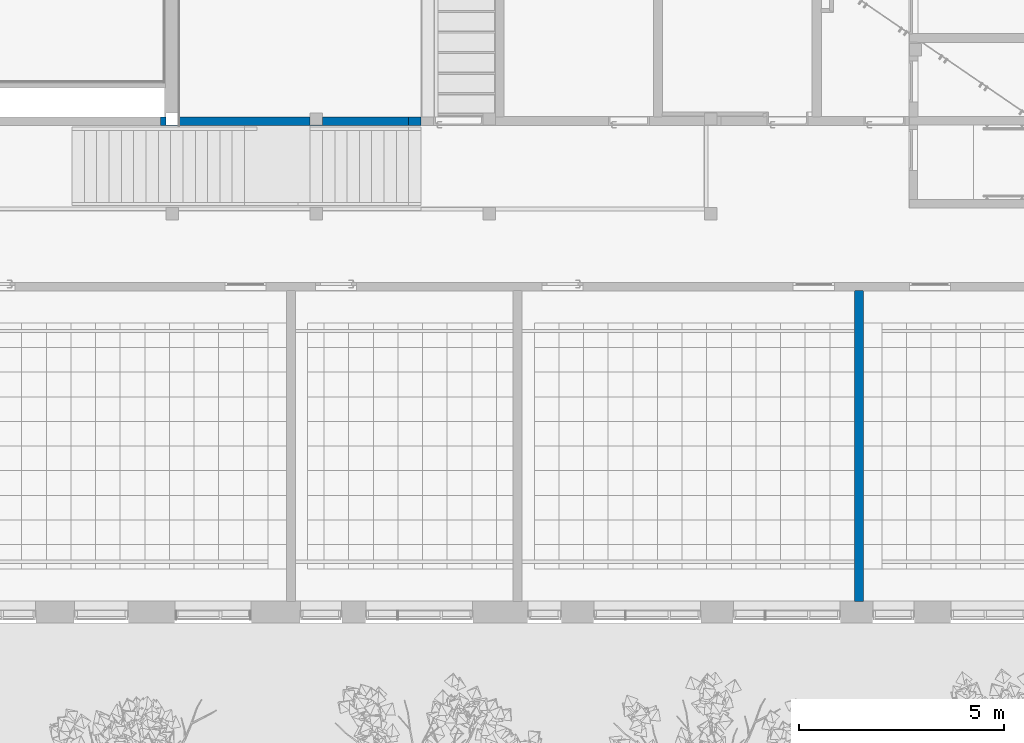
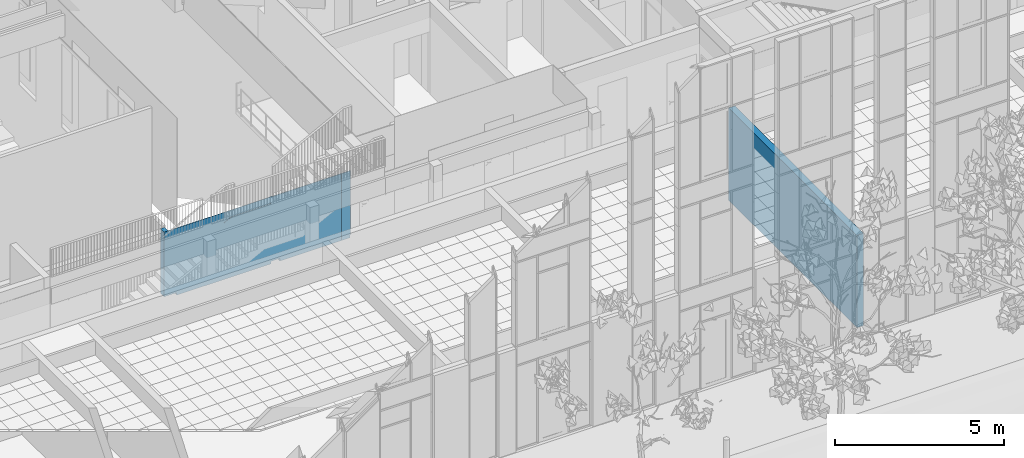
# One storey, part 131 of 246: 3 walls.
"""IFC2X3 building model written with IfcOpenShell, lengths in millimetres."""

import ifcopenshell
import ifcopenshell.guid

model = None  # the IFC model being written
_history = None  # IfcOwnerHistory: only IFC2X3 demands one
_inside = {}  # id of a spatial element -> (the spatial element, [elements in it])
_under = {}  # id of a project, library or spatial element -> (it, [spatial elements below it])
_declared = {}  # id of a project -> (the project, [libraries it declares])
_typed = {}  # id of a type object -> (the type object, [elements of that type])
_made_of = {}  # id of a material, layer set ... -> (it, [elements and type objects made of it])


def new_model(schema):
    """Start an empty IFC model of exactly this schema.

    Asked for "IFC4X3", IfcOpenShell would pick the latest addendum, in which some entities
    have other attributes; the version numbers below select the first issue.
    IFC2X3 requires an IfcOwnerHistory on every rooted entity: one is made here for all.
    """
    global model, _history
    if schema == "IFC4X3":
        model = ifcopenshell.file(schema_version=(4, 3, 0, 0))
    else:
        model = ifcopenshell.file(schema=schema)
    _inside.clear()
    _under.clear()
    _declared.clear()
    _typed.clear()
    _made_of.clear()
    _history = None
    if model.schema == "IFC2X3":
        org = make("IfcOrganization", Name="unknown")
        user = make(
            "IfcPersonAndOrganization",
            ThePerson=make("IfcPerson", FamilyName="unknown"),
            TheOrganization=org,
        )
        app = make(
            "IfcApplication",
            ApplicationDeveloper=org,
            Version="unknown",
            ApplicationFullName="unknown",
            ApplicationIdentifier="unknown",
        )
        _history = make(
            "IfcOwnerHistory",
            OwningUser=user,
            OwningApplication=app,
            ChangeAction="ADDED",
            CreationDate=0,
        )
    return model


def make(cls, **values):
    """One entity of the class cls with the attributes given. An attribute that is None is left unset."""
    return model.create_entity(
        cls, **{name: value for name, value in values.items() if value is not None}
    )


def entity(cls, *values):
    """Any entity or typed value of the class cls, its attributes in the order of the schema. None: left unset."""
    e = model.create_entity(cls)
    for i, value in enumerate(values):
        if value is not None:
            e[i] = value
    return e


def rooted(cls, **values):
    """An entity with a GlobalId (a new one), such as an element, a storey or a relation."""
    return make(cls, GlobalId=ifcopenshell.guid.new(), OwnerHistory=_history, **values)


def si_unit(unit_type, name, prefix=None):
    """IfcSIUnit, for example si_unit("LENGTHUNIT", "METRE", prefix="MILLI")."""
    return make("IfcSIUnit", UnitType=unit_type, Prefix=prefix, Name=name)


def converted_unit(unit_type, name, factor, base, dimensions=None, offset=None):
    """IfcConversionBasedUnit, such as the inch: factor (a typed value) times the base unit."""
    return make(
        "IfcConversionBasedUnit"
        if offset is None
        else "IfcConversionBasedUnitWithOffset",
        ConversionOffset=offset,
        Dimensions=None
        if dimensions is None
        else entity("IfcDimensionalExponents", *dimensions),
        UnitType=unit_type,
        Name=name,
        ConversionFactor=make(
            "IfcMeasureWithUnit", ValueComponent=factor, UnitComponent=base
        ),
    )


def derived_unit(unit_type, elements):
    """IfcDerivedUnit: a product of units, each with its exponent."""
    return make(
        "IfcDerivedUnit",
        Elements=[
            make("IfcDerivedUnitElement", Unit=unit, Exponent=power)
            for unit, power in elements
        ],
        UnitType=unit_type,
    )


def money_unit(currency):
    """IfcMonetaryUnit."""
    return make("IfcMonetaryUnit", Currency=currency)


def assignment(units):
    """IfcUnitAssignment: the units of a project."""
    return None if units is None else make("IfcUnitAssignment", Units=units)


def point(xyz):
    """IfcCartesianPoint."""
    return None if xyz is None else make("IfcCartesianPoint", Coordinates=xyz)


def direction(xyz):
    """IfcDirection."""
    return None if xyz is None else make("IfcDirection", DirectionRatios=xyz)


def frame(location, z_axis=None, x_axis=None):
    """IfcAxis2Placement3D, a coordinate frame: its origin and axes. An axis left out is left unset."""
    return make(
        "IfcAxis2Placement3D",
        Location=point(location),
        Axis=direction(z_axis),
        RefDirection=direction(x_axis),
    )


def origin_with_axes():
    """The frame at (0, 0, 0) with the z axis (0, 0, 1) and the x axis (1, 0, 0) written out."""
    return frame((0.0, 0.0, 0.0), z_axis=(0.0, 0.0, 1.0), x_axis=(1.0, 0.0, 0.0))


def place(relative_to, where):
    """IfcLocalPlacement: puts the frame where relative to a parent placement (None: the world)."""
    return make(
        "IfcLocalPlacement", PlacementRelTo=relative_to, RelativePlacement=where
    )


def context(
    kind, dimensions, precision=None, world=None, true_north=None, identifier=None
):
    """IfcGeometricRepresentationContext, for example the 3D "Model" context."""
    return make(
        "IfcGeometricRepresentationContext",
        ContextIdentifier=identifier,
        ContextType=kind,
        CoordinateSpaceDimension=dimensions,
        Precision=precision,
        WorldCoordinateSystem=world,
        TrueNorth=true_north,
    )


def subcontext(parent, identifier, kind, view, scale=None):
    """IfcGeometricRepresentationSubContext, for example "Body" below "Model"."""
    return make(
        "IfcGeometricRepresentationSubContext",
        ContextIdentifier=identifier,
        ContextType=kind,
        ParentContext=parent,
        TargetScale=scale,
        TargetView=view,
    )


def project(units=None, contexts=None):
    """IfcProject with its units and contexts."""
    return rooted(
        "IfcProject",
        Name="project",
        RepresentationContexts=contexts,
        UnitsInContext=assignment(units),
    )


def spatial(cls, under=None, at=None, **own):
    """A site, building, storey or space (cls), placed at a placement, below another one or the project."""
    s = rooted(cls, ObjectPlacement=at, **own)
    if under is not None:
        _under.setdefault(under.id(), (under, []))[1].append(s)
    return s


def faces_of(points, faces, orient=None, outer=None):
    """IfcFace entities. A face is a list of loops; a loop is a list of indices into points, from 0.

    orient and outer hold one flag for each loop. By default every Orientation is true, the
    first loop of a face is its IfcFaceOuterBound and the others are IfcFaceBound.
    """
    made = []
    for i, loops in enumerate(faces):
        bounds = []
        for j, loop in enumerate(loops):
            is_outer = j == 0 if outer is None else outer[i][j]
            bounds.append(
                make(
                    "IfcFaceOuterBound" if is_outer else "IfcFaceBound",
                    Bound=make("IfcPolyLoop", Polygon=[points[k] for k in loop]),
                    Orientation=True if orient is None else orient[i][j],
                )
            )
        made.append(make("IfcFace", Bounds=bounds))
    return made


def faceted_brep(points, faces, orient=None, outer=None, voids=None):
    """IfcFacetedBrep: a solid bounded by flat faces; with voids (closed shells), ...WithVoids."""
    shared = [point(p) for p in points]
    hull = make("IfcClosedShell", CfsFaces=faces_of(shared, faces, orient, outer))
    if voids is None:
        return make("IfcFacetedBrep", Outer=hull)
    return make(
        "IfcFacetedBrepWithVoids",
        Outer=hull,
        Voids=[
            make(cls, CfsFaces=faces_of(shared, fs, o, b)) for cls, fs, o, b in voids
        ],
    )


def shape(context_of_items, identifier, shape_type, items):
    """IfcShapeRepresentation: the items that make up one representation, for example the "Body"."""
    return make(
        "IfcShapeRepresentation",
        ContextOfItems=context_of_items,
        RepresentationIdentifier=identifier,
        RepresentationType=shape_type,
        Items=items,
    )


def material(Name=None, Category=None):
    """IfcMaterial."""
    return make("IfcMaterial", Name=Name, Category=Category)


def material_list(materials):
    """IfcMaterialList."""
    return make("IfcMaterialList", Materials=materials)


def made_of(thing, what):
    """Note that an element or type object is made of a material, layer set ...; save() writes the relation."""
    if what is not None:
        _made_of.setdefault(what.id(), (what, []))[1].append(thing)
    return thing


def type_object(cls, material=None, **own):
    """A type object (cls), such as IfcWallType, which elements share."""
    return made_of(rooted(cls, **own), material)


def element(
    cls,
    number,
    at=None,
    inside=None,
    cuts=None,
    type_object=None,
    material=None,
    context=None,
    identifier="Body",
    shape_type=None,
    held_by="IfcProductDefinitionShape",
    body=None,
    shapes=None,
    **own,
):
    """One element of the class cls, such as IfcWall. Its Tag is "e" and its number.

    at: its placement. inside: the storey or other place that contains it. cuts: it is an
    opening in that element (IfcRelVoidsElement). A single representation is given by context,
    identifier, shape_type and body (its items); several are given by shapes. held_by: the class
    of the entity that holds the representations. save() writes the other relations.
    """
    e = rooted(cls, Tag="e%d" % number, ObjectPlacement=at, **own)
    if body is not None:
        shapes = [shape(context, identifier, shape_type, body)]
    if shapes is not None:
        e.Representation = make(held_by, Representations=shapes)
    if inside is not None:
        _inside.setdefault(inside.id(), (inside, []))[1].append(e)
    if cuts is not None:
        rooted(
            "IfcRelVoidsElement", RelatingBuildingElement=cuts, RelatedOpeningElement=e
        )
    if type_object is not None:
        _typed.setdefault(type_object.id(), (type_object, []))[1].append(e)
    return made_of(e, material)


def aggregate(whole, parts):
    """IfcRelAggregates: a whole, such as a stair, and the parts it consists of."""
    return rooted("IfcRelAggregates", RelatingObject=whole, RelatedObjects=parts)


def save(model, path):
    """Write the relations noted so far, then the file.

    IfcRelAggregates (storeys below a building ...), IfcRelContainedInSpatialStructure (elements
    in a storey), IfcRelDefinesByType, IfcRelAssociatesMaterial and IfcRelDeclares: one each for
    every whole, place, type object, material and project.
    """
    for whole, parts in _under.values():
        aggregate(whole, parts)
    for where, things in _inside.values():
        rooted(
            "IfcRelContainedInSpatialStructure",
            RelatedElements=things,
            RelatingStructure=where,
        )
    for kind, things in _typed.values():
        rooted("IfcRelDefinesByType", RelatedObjects=things, RelatingType=kind)
    for what, things in _made_of.values():
        rooted("IfcRelAssociatesMaterial", RelatedObjects=things, RelatingMaterial=what)
    for by, libraries in _declared.values():
        rooted("IfcRelDeclares", RelatingContext=by, RelatedDefinitions=libraries)
    model.write(path)


model = new_model("IFC2X3")

# Units and contexts
model_context = context("Model", 3, precision=0.01, world=origin_with_axes(), true_north=direction((0.0, 1.0)))
body_context = subcontext(model_context, "Body", "Model", "MODEL_VIEW")
ifc_project = project(units=[si_unit("LENGTHUNIT", "METRE", prefix="MILLI"), si_unit("AREAUNIT", "SQUARE_METRE"), si_unit("VOLUMEUNIT", "CUBIC_METRE"), converted_unit("PLANEANGLEUNIT", "DEGREE", entity("IfcPlaneAngleMeasure", 0.0174532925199), si_unit("PLANEANGLEUNIT", "RADIAN"), dimensions=[0, 0, 0, 0, 0, 0, 0]), si_unit("SOLIDANGLEUNIT", "STERADIAN"), money_unit("EUR"), converted_unit("TIMEUNIT", "Year", entity("IfcTimeMeasure", 31556926.0), si_unit("TIMEUNIT", "SECOND"), dimensions=[0, 0, 1, 0, 0, 0, 0]), si_unit("MASSUNIT", "GRAM", prefix="KILO"), si_unit("THERMODYNAMICTEMPERATUREUNIT", "DEGREE_CELSIUS"), si_unit("LUMINOUSINTENSITYUNIT", "LUMEN"), si_unit("ENERGYUNIT", "JOULE", prefix="MEGA"), derived_unit("THERMALCONDUCTANCEUNIT", [(si_unit("POWERUNIT", "WATT"), 1), (si_unit("LENGTHUNIT", "METRE"), -1), (si_unit("THERMODYNAMICTEMPERATUREUNIT", "KELVIN"), -1)]), derived_unit("SPECIFICHEATCAPACITYUNIT", [(si_unit("ENERGYUNIT", "JOULE"), 1), (si_unit("MASSUNIT", "GRAM", prefix="KILO"), -1), (si_unit("THERMODYNAMICTEMPERATUREUNIT", "KELVIN"), -1)]), derived_unit("MASSDENSITYUNIT", [(si_unit("MASSUNIT", "GRAM", prefix="KILO"), 1), (si_unit("VOLUMEUNIT", "CUBIC_METRE"), -1)])], contexts=[model_context])

# Site, building, storey
site_placement = place(None, origin_with_axes())
site = spatial("IfcSite", under=ifc_project, at=site_placement, Name="L.Koidula tn 11b", CompositionType="ELEMENT")
building_placement = place(site_placement, origin_with_axes())
building = spatial("IfcBuilding", under=site, at=building_placement, Name="Rakvere Riigigümnaasium", CompositionType="ELEMENT")
storey_placement = place(building_placement, origin_with_axes())
storey = spatial("IfcBuildingStorey", under=building, at=storey_placement, Name="1.korrus 0,00", CompositionType="ELEMENT", Elevation=0.0)

# Walls
ifc_material_1 = material(Name="siseviimistlus-seinad")
ifc_material_2 = material(Name="Betoon element / plaat")
ifc_material_list_1 = material_list([ifc_material_1, ifc_material_2, ifc_material_1])
wall_type_1 = type_object("IfcWallType", Name="SS-01-2 220", PredefinedType="NOTDEFINED")
wall_1_placement = place(storey_placement, frame((74660.015089, 13280.4510293, 0.0), z_axis=(0.0, 0.0, 1.0), x_axis=(0.0, -1.0, 0.0)))
element("IfcWall", 1, at=wall_1_placement, inside=storey, type_object=wall_type_1, material=ifc_material_list_1, Name="Sisesein", context=body_context, shape_type="Brep", body=[
    faceted_brep([(209.999946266, 200.0, 3325.0), (209.999943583, 210.0, 3325.0), (209.999943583, 210.0, 0.0), (209.999946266, 200.0, 0.0), (7779.99548961, 210.0, 3325.0), (7779.99548961, 200.0, 3325.0), (7779.99549038, 210.0, -9.39901378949e-06), (7779.99549038, 200.0, -9.39666300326e-06)], [[[0, 1, 2, 3]], [[4, 1, 0, 5]], [[1, 4, 6, 2]], [[2, 6, 7, 3]], [[5, 0, 3, 7]], [[4, 5, 7, 6]]]),
    faceted_brep([(199.996657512, 0.0, 3325.0), (199.996657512, 200.0, 3325.0), (199.999946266, 200.0, 0.0), (199.99999992, 0.0, 0.0), (7779.99548961, 200.0, 3325.0), (7779.99548961, 0.0, 3325.0), (7779.99549038, 200.0, -9.39666300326e-06), (7779.99549038, 0.0, -9.34964905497e-06)], [[[0, 1, 2, 3]], [[4, 1, 0, 5]], [[1, 4, 6, 2]], [[2, 6, 7, 3]], [[5, 0, 3, 7]], [[4, 5, 7, 6]]]),
    faceted_brep([(210.000002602, -10.0, 3325.0), (209.99999992, 0.0, 3325.0), (209.99999992, 0.0, 0.0), (210.000002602, -10.0, 0.0), (7779.99548961, 0.0, 3325.0), (7779.99548961, -9.99999999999, 3325.0), (7779.99549038, 0.0, -9.34964927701e-06), (7779.99549038, -10.0, -9.34729849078e-06)], [[[0, 1, 2, 3]], [[4, 1, 0, 5]], [[1, 4, 6, 2]], [[2, 6, 7, 3]], [[5, 0, 3, 7]], [[4, 5, 7, 6]]]),
])
ifc_material_list_2 = material_list([ifc_material_1, ifc_material_2])
wall_type_2 = type_object("IfcWallType", Name="SS-01-1 210", PredefinedType="NOTDEFINED")
wall_2_placement = place(storey_placement, frame((63790.0000003, 17110.4555225, -100.0), z_axis=(0.0, 0.0, 1.0), x_axis=(-1.0, 0.0, 0.0)))
element("IfcWall", 2, at=wall_2_placement, inside=storey, type_object=wall_type_2, material=ifc_material_list_2, Name="Sisesein", context=body_context, shape_type="Brep", body=[
    faceted_brep([(2448.16014683, -0.00497850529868, 2175.0), (2400.00051243, -0.00501174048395, 2199.88247977), (2400.00051243, -0.00501174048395, 2425.0), (2399.97906929, 0.0, 2425.0), (2399.97906929, 1.30358479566e-05, 2295.0), (2099.97906929, 1.30358479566e-05, 2295.0), (2099.97906929, 0.0, 2425.0), (0.0, 0.0, 2425.0), (0.0, 1.30358479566e-05, 100.0), (2099.97906929, 8.66258176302e-06, 100.0), (2099.97906929, 1.30358479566e-05, 1980.0), (2399.97906929, 1.30358479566e-05, 1980.0), (2399.97906929, 8.03782285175e-06, 100.0), (6044.9651902, 4.4703440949e-07, 99.9999986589), (6044.9651902, 0.0, 2425.0), (3999.9994986, -0.00390702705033, 2425.0), (3999.9994986, -0.00390702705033, 2044.88300566), (3748.16015541, -0.00408136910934, 2174.99999964), (2448.16014683, 10.0, 2175.0), (2400.00051122, 10.0, 2199.8824804), (2400.00051122, 10.0, 2425.0), (0.0, 10.0, 2425.0), (2099.97906929, 0.0230084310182, 2425.0), (2399.97906929, 0.0230084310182, 2425.0), (2399.97906929, 0.0230084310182, 2295.0), (2099.97906929, 0.0230084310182, 2295.0), (0.0, 10.0, 100.0), (2399.97906929, 0.0230084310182, 100.0), (2099.97906929, 0.0230084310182, 100.0), (5609.9651902, 10.0, 100.0), (6044.9651902, 10.0, 99.9999986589), (2099.97906929, 0.0230084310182, 1980.0), (2399.97906929, 0.0230084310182, 1980.0), (6044.9651902, 10.0, 2425.0), (3999.99950344, 10.0, 2425.0), (3999.99950344, 10.0, 2044.88300316), (3748.16015541, 10.0, 2174.99999964)], [[[0, 1, 2, 3, 4, 5, 6, 7, 8, 9, 10, 11, 12, 13, 14, 15, 16, 17]], [[1, 0, 18, 19]], [[20, 2, 1, 19]], [[2, 20, 21, 7, 6, 22, 23, 3]], [[24, 4, 3, 23]], [[25, 5, 4, 24]], [[25, 22, 6, 5]], [[7, 21, 26, 8]], [[27, 28, 9, 8, 26, 29, 30, 13, 12]], [[31, 10, 9, 28]], [[32, 11, 10, 31]], [[27, 12, 11, 32]], [[13, 30, 33, 14]], [[34, 15, 14, 33]], [[16, 15, 34, 35]], [[17, 16, 35, 36]], [[0, 17, 36, 18]], [[35, 34, 33, 30, 29, 26, 21, 20, 19, 18, 36]], [[24, 23, 22, 25]], [[31, 28, 27, 32]]]),
    faceted_brep([(6044.9651902, 0.0, 2425.0), (5909.96511841, 1.30358479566e-05, 2425.0), (5909.96511841, -200.0, 2425.0), (6044.9651902, -200.0, 2425.0), (6044.9651902, 4.4703440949e-07, 99.9999986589), (5909.96511841, 1.30358479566e-05, 99.9999986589), (5909.96511841, -200.0, 99.9999986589), (6044.9651902, -200.0, 99.9999986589)], [[[0, 1, 2, 3]], [[4, 5, 1, 0]], [[5, 6, 2, 1]], [[3, 2, 6, 7]], [[7, 4, 0, 3]], [[7, 6, 5, 4]]]),
    faceted_brep([(2399.97906929, -0.499698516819, 1980.0), (2399.97906929, 0.0, 1980.0), (2399.97906929, 1.9124257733e-07, 0.0), (2399.97906929, -200.0, 0.0), (2399.97906929, -200.0, 1980.0), (2099.97906929, -0.499698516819, 1980.0), (2099.97906929, 0.0, 1980.0), (2099.97906929, 1.67339919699e-07, 0.0), (0.0, 0.0, 0.0), (0.0, 0.0, 2425.0), (2099.97906929, 0.0, 2425.0), (2099.97906929, 0.0, 2295.0), (2399.97906929, 0.0, 2295.0), (2399.97906929, 0.0, 2425.0), (5609.96511841, 1.30358479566e-05, 2425.0), (5609.96511841, 1.30358479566e-05, 99.9999986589), (5609.9651902, 4.4703440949e-07, 0.0), (5609.9651902, -200.0, 0.0), (5609.96511841, -200.0, 99.9999986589), (5609.96511841, -200.0, 1980.0), (5609.96511841, -0.499698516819, 1980.0), (5609.96511841, -0.499698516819, 2425.0), (2399.97906929, -0.499698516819, 2425.0), (2399.97906929, -0.499698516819, 2295.0), (2099.97906929, -0.499698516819, 2295.0), (2099.97906929, -0.499698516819, 2425.0), (0.0, -0.499698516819, 2425.0), (0.0, -0.499698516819, 1980.0), (2099.97906929, -200.0, 1980.0), (2099.97906929, -200.0, 0.0), (0.0, -200.0, 0.0), (0.0, -200.0, 1980.0)], [[[0, 1, 2, 3, 4]], [[1, 0, 5, 6]], [[6, 7, 8, 9, 10, 11, 12, 13, 14, 15, 16, 2, 1]], [[17, 3, 2, 16]], [[4, 3, 17, 18, 19]], [[4, 19, 20, 0]], [[0, 20, 21, 22, 23, 24, 25, 26, 27, 5]], [[5, 28, 29, 7, 6]], [[8, 7, 29, 30]], [[30, 31, 27, 26, 9, 8]], [[26, 25, 10, 9]], [[11, 10, 25, 24]], [[11, 24, 23, 12]], [[12, 23, 22, 13]], [[22, 21, 14, 13]], [[21, 20, 19, 18, 17, 16, 15, 14]], [[31, 28, 5, 27]], [[30, 29, 28, 31]]]),
])
wall_3_placement = place(storey_placement, frame((64089.9999992, 17110.4555225, -100.0), z_axis=(0.0, 0.0, 1.0), x_axis=(-1.0, 0.0, 0.0)))
element("IfcWall", 3, at=wall_3_placement, inside=storey, type_object=wall_type_2, material=ifc_material_list_2, Name="Sisesein", context=body_context, shape_type="Brep", body=[
    faceted_brep([(0.0, 10.0, 100.0), (0.0, 1.30358479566e-05, 100.0), (0.0, 0.0, 2425.0), (0.0, 10.0, 2425.0), (299.999998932, 1.30358479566e-05, 100.0), (299.999998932, 10.0, 100.0), (299.999998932, 0.0, 2425.0), (299.999998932, 10.0, 2425.0)], [[[0, 1, 2, 3]], [[4, 1, 0, 5]], [[1, 4, 6, 2]], [[2, 6, 7, 3]], [[5, 0, 3, 7]], [[4, 5, 7, 6]]]),
    faceted_brep([(299.999998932, -200.0, 1980.0), (0.0, -200.0, 1980.0), (0.0, -200.0, 0.0), (299.999998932, -200.0, 0.0), (0.0, -0.499698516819, 1980.0), (299.999998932, -0.499698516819, 1980.0), (0.0, -0.499698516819, 2425.0), (0.0, 0.0, 2425.0), (0.0, 0.0, 0.0), (299.999998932, 0.0, 0.0), (299.999998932, 0.0, 2425.0), (299.999998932, -0.499698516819, 2425.0)], [[[0, 1, 2, 3]], [[4, 1, 0, 5]], [[4, 6, 7, 8, 2, 1]], [[8, 9, 3, 2]], [[5, 0, 3, 9, 10, 11]], [[4, 5, 11, 6]], [[6, 11, 10, 7]], [[7, 10, 9, 8]]]),
])

save(model, "model.ifc")
